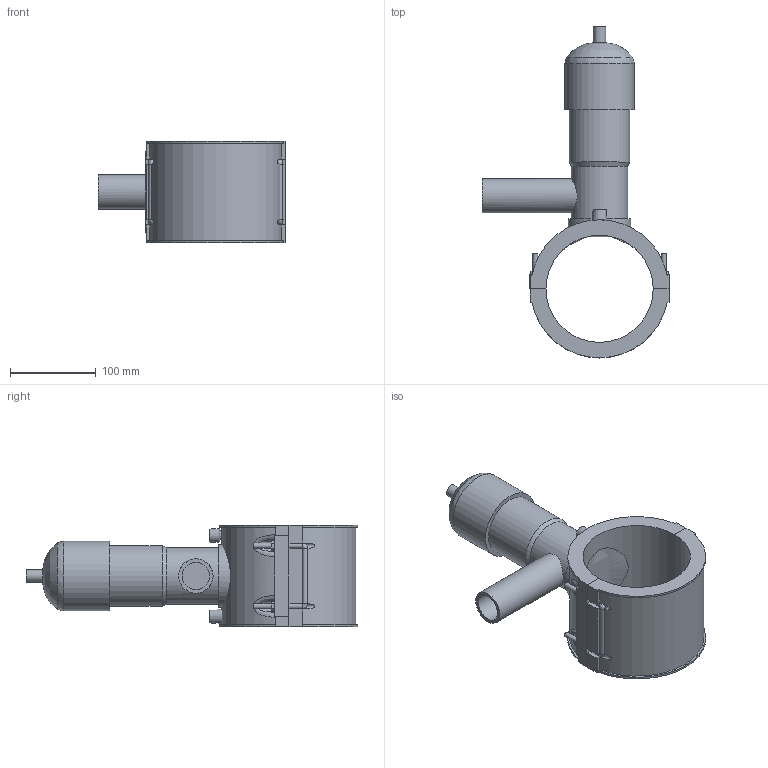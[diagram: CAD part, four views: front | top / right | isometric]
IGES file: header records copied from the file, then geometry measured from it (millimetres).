
Global section: file name: 495404125040.ipt; native system: Autodesk Inventor 2015; preprocessor: unknown; author: KIM; date: 20171106.094251; units: millimetre
Bounding box: 219 x 386.97 x 118 mm (x, y, z)
Volume: 1799463.6 mm3; surface area: 229800.2 mm2
Topology: 3 solids, 3 shells, 157 faces, 394 edges, 258 vertices
Faces by surface type: plane 99, cylinder 27, revolution 20, cone 7, bspline 4
Full cylindrical faces by diameter (mm): 4 x2, 6 x8, 14.64 x1, 40 x1, 65.88 x1, 70.76 x1, 73.2 x1, 81.333 x1
